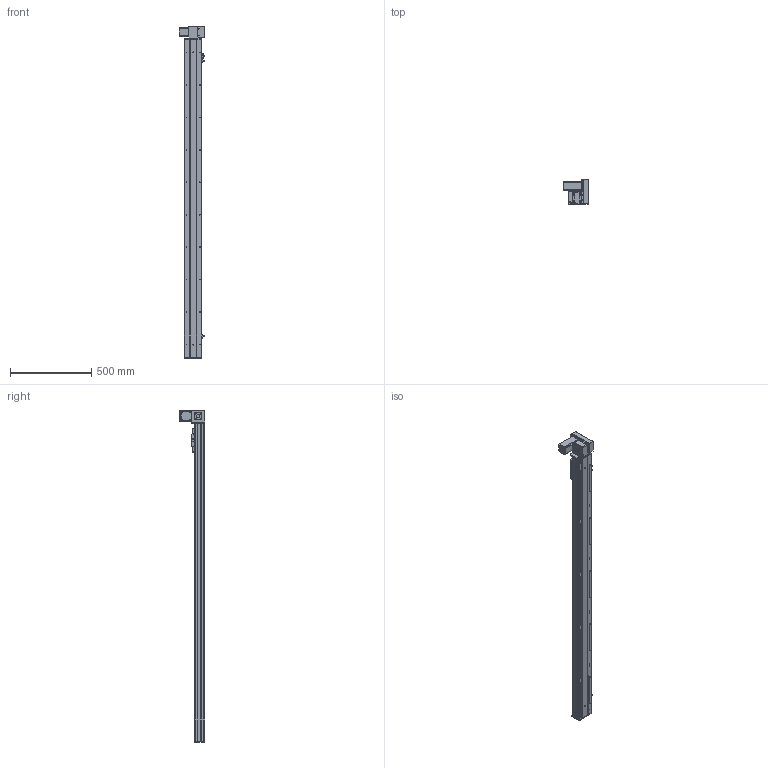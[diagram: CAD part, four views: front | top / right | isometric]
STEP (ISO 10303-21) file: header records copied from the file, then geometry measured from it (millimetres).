
FILE_DESCRIPTION (( 'STEP AP203' ), '1' );
FILE_NAME ('Y10CB-D90-S1700-UR-P400W.STEP', '2020-02-16T03:54:48', ( '微软用户' ), ( '微软中国' ), 'SwSTEP 2.0', 'SolidWorks 2017', '' );
FILE_SCHEMA (( 'CONFIG_CONTROL_DESIGN' ));
Length unit declared in the file: millimetre
Products named in the file (18): Y10B-耜蚾蟀諉啣----; 10CB-詩湍-; 00B-俋欶BM--; Y10CB- 掛极耜裔啣-毀---; 0CB-雄赽釱---; Y10CB-D90-S1700-UR-P400W; Y10C---詩湍揤啣; 0Cb-俋欶---; 10CB9-掛极; Y10B-々湍喘謫眊楊擘啣--; 10CB-耜裔; 0B-萇儂楊擘啣; Y135C-陔俋离換覜結え-; san松下电机400不带刹车----; Y100-135俋离換覜ん--; 0B-源倛裔啣; Y10B--々湍喘謫眊--666; 0B-埴倛裔啣
Assembly tree (21 placements, depth 2):
  Y10CB-D90-S1700-UR-P400W
    0CB-雄赽釱---
    0Cb-俋欶---
    Y10B-々湍喘謫眊楊擘啣--
    0B-萇儂楊擘啣
    san松下电机400不带刹车----
    0B-源倛裔啣
    0B-埴倛裔啣
    10CB-詩湍-
    Y10CB- 掛极耜裔啣-毀---  x2
    Y10C---詩湍揤啣  x2
    10CB9-掛极
    10CB-耜裔
    Y135C-陔俋离換覜結え-
    Y100-135俋离換覜ん--  x3
    Y10B--々湍喘謫眊--666
    Y10B-耜蚾蟀諉啣----
    00B-俋欶BM--
Bounding box: 157 x 155.5 x 2046 mm (x, y, z)
Volume: 4357550 mm3; surface area: 2027708.7 mm2
Topology: 21 solids, 21 shells, 1026 faces, 2763 edges, 1802 vertices
Faces by surface type: cylinder 519, plane 483, cone 24
Entity records: 32412 total; most frequent: CARTESIAN_POINT 5913, DIRECTION 5202, ORIENTED_EDGE 4996, EDGE_CURVE 2498, AXIS2_PLACEMENT_3D 1861, VERTEX_POINT 1628, LINE 1480, VECTOR 1480
